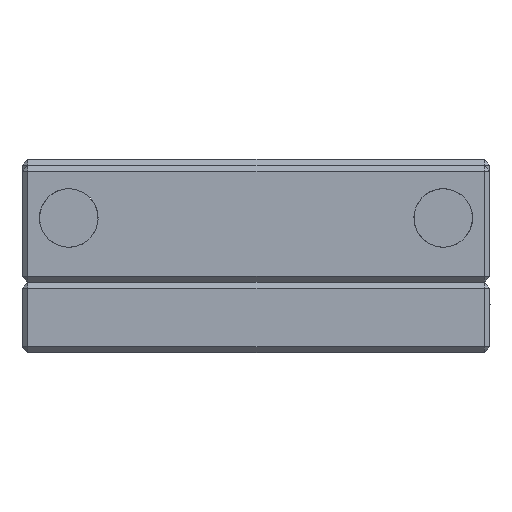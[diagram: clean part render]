
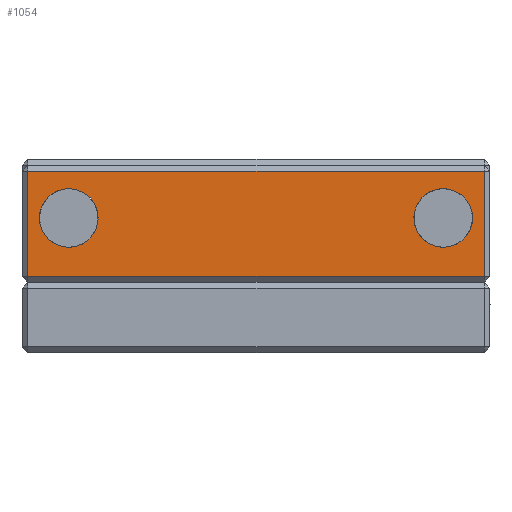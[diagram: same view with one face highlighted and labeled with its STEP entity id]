
A CAD part, left-side view. The second image highlights one B-rep face of the part: STEP entity #1054.
In plain terms, the highlighted planar face has unit normal (-1, 0, 0) as drawn and (1, 0, 0) by its records, which use the part's own axes.
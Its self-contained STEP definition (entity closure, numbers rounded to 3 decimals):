
#751 = ORIENTED_EDGE ( 'NONE', *, *, #28628, .F. ) ;
#1054 = ADVANCED_FACE ( 'NONE', ( #34201, #17973, #6739 ), #9585, .F. ) ;
#2325 = CARTESIAN_POINT ( 'NONE',  ( 7.5, 16., 8. ) ) ;
#2862 = CARTESIAN_POINT ( 'NONE',  ( 7.5, -16., 5.5 ) ) ;
#3771 = VERTEX_POINT ( 'NONE', #23512 ) ;
#5075 = VECTOR ( 'NONE', #26893, 1000. ) ;
#5224 = AXIS2_PLACEMENT_3D ( 'NONE', #34635, #13223, #39542 ) ;
#5234 = ORIENTED_EDGE ( 'NONE', *, *, #20063, .F. ) ;
#5769 = CARTESIAN_POINT ( 'NONE',  ( 7.5, -16., 3. ) ) ;
#6081 = VERTEX_POINT ( 'NONE', #5769 ) ;
#6165 = CARTESIAN_POINT ( 'NONE',  ( 7.5, 19.5, 0.5 ) ) ;
#6739 = FACE_OUTER_BOUND ( 'NONE', #38108, .T. ) ;
#6872 = ORIENTED_EDGE ( 'NONE', *, *, #15836, .F. ) ;
#6928 = CIRCLE ( 'NONE', #42488, 2.5 ) ;
#7290 = CARTESIAN_POINT ( 'NONE',  ( 7.5, -20., 9.5 ) ) ;
#7599 = DIRECTION ( 'NONE',  ( 0., 1., 0. ) ) ;
#8183 = CARTESIAN_POINT ( 'NONE',  ( 7.5, -16., 5.5 ) ) ;
#9106 = EDGE_CURVE ( 'NONE', #3771, #23472, #28775, .T. ) ;
#9585 = PLANE ( 'NONE',  #5224 ) ;
#9959 = CARTESIAN_POINT ( 'NONE',  ( 7.5, 16., 5.5 ) ) ;
#9996 = VERTEX_POINT ( 'NONE', #2325 ) ;
#11104 = CARTESIAN_POINT ( 'NONE',  ( 7.5, 19.5, 10. ) ) ;
#11105 = EDGE_CURVE ( 'NONE', #15657, #32645, #25888, .T. ) ;
#11499 = ORIENTED_EDGE ( 'NONE', *, *, #44241, .F. ) ;
#12100 = AXIS2_PLACEMENT_3D ( 'NONE', #35988, #14386, #43058 ) ;
#13088 = CARTESIAN_POINT ( 'NONE',  ( 7.5, 19.5, 9.5 ) ) ;
#13223 = DIRECTION ( 'NONE',  ( -1., 0., 0. ) ) ;
#14386 = DIRECTION ( 'NONE',  ( 1., 0., 0. ) ) ;
#15170 = DIRECTION ( 'NONE',  ( 0., 0., -1. ) ) ;
#15657 = VERTEX_POINT ( 'NONE', #6165 ) ;
#15836 = EDGE_CURVE ( 'NONE', #6081, #33407, #22807, .T. ) ;
#17042 = ORIENTED_EDGE ( 'NONE', *, *, #9106, .F. ) ;
#17973 = FACE_BOUND ( 'NONE', #45938, .T. ) ;
#18876 = LINE ( 'NONE', #11104, #23356 ) ;
#20063 = EDGE_CURVE ( 'NONE', #9996, #28411, #30423, .T. ) ;
#20279 = VECTOR ( 'NONE', #25015, 1000. ) ;
#21900 = CARTESIAN_POINT ( 'NONE',  ( 7.5, -19.5, 10. ) ) ;
#22807 = CIRCLE ( 'NONE', #40972, 2.5 ) ;
#23356 = VECTOR ( 'NONE', #15170, 1000. ) ;
#23472 = VERTEX_POINT ( 'NONE', #13088 ) ;
#23512 = CARTESIAN_POINT ( 'NONE',  ( 7.5, -19.5, 9.5 ) ) ;
#24462 = CARTESIAN_POINT ( 'NONE',  ( 7.5, -19.5, 0.5 ) ) ;
#24972 = ORIENTED_EDGE ( 'NONE', *, *, #26835, .F. ) ;
#25015 = DIRECTION ( 'NONE',  ( 0., 0., 1. ) ) ;
#25053 = EDGE_CURVE ( 'NONE', #28411, #9996, #34019, .T. ) ;
#25888 = LINE ( 'NONE', #37053, #5075 ) ;
#26577 = CARTESIAN_POINT ( 'NONE',  ( 7.5, 16., 3. ) ) ;
#26835 = EDGE_CURVE ( 'NONE', #23472, #15657, #18876, .T. ) ;
#26893 = DIRECTION ( 'NONE',  ( 0., -1., 0. ) ) ;
#27223 = DIRECTION ( 'NONE',  ( 0., 0., 1. ) ) ;
#27781 = DIRECTION ( 'NONE',  ( 1., 0., 0. ) ) ;
#28411 = VERTEX_POINT ( 'NONE', #26577 ) ;
#28628 = EDGE_CURVE ( 'NONE', #33407, #6081, #6928, .T. ) ;
#28775 = LINE ( 'NONE', #7290, #29872 ) ;
#29495 = DIRECTION ( 'NONE',  ( 0., 0., 1. ) ) ;
#29872 = VECTOR ( 'NONE', #7599, 1000. ) ;
#30423 = CIRCLE ( 'NONE', #40781, 2.5 ) ;
#31415 = DIRECTION ( 'NONE',  ( 1., 0., 0. ) ) ;
#31446 = EDGE_LOOP ( 'NONE', ( #5234, #35874 ) ) ;
#32645 = VERTEX_POINT ( 'NONE', #24462 ) ;
#33407 = VERTEX_POINT ( 'NONE', #34390 ) ;
#34019 = CIRCLE ( 'NONE', #12100, 2.5 ) ;
#34201 = FACE_BOUND ( 'NONE', #31446, .T. ) ;
#34390 = CARTESIAN_POINT ( 'NONE',  ( 7.5, -16., 8. ) ) ;
#34635 = CARTESIAN_POINT ( 'NONE',  ( 7.5, -20., 10. ) ) ;
#34807 = LINE ( 'NONE', #21900, #20279 ) ;
#35874 = ORIENTED_EDGE ( 'NONE', *, *, #25053, .F. ) ;
#35988 = CARTESIAN_POINT ( 'NONE',  ( 7.5, 16., 5.5 ) ) ;
#37053 = CARTESIAN_POINT ( 'NONE',  ( 7.5, -20., 0.5 ) ) ;
#38108 = EDGE_LOOP ( 'NONE', ( #40119, #24972, #17042, #11499 ) ) ;
#38599 = DIRECTION ( 'NONE',  ( 0., 0., 1. ) ) ;
#39542 = DIRECTION ( 'NONE',  ( 0., 0., 1. ) ) ;
#40119 = ORIENTED_EDGE ( 'NONE', *, *, #11105, .F. ) ;
#40479 = DIRECTION ( 'NONE',  ( 1., 0., 0. ) ) ;
#40781 = AXIS2_PLACEMENT_3D ( 'NONE', #9959, #31415, #27223 ) ;
#40972 = AXIS2_PLACEMENT_3D ( 'NONE', #8183, #40479, #29495 ) ;
#42488 = AXIS2_PLACEMENT_3D ( 'NONE', #2862, #27781, #38599 ) ;
#43058 = DIRECTION ( 'NONE',  ( 0., 0., 1. ) ) ;
#44241 = EDGE_CURVE ( 'NONE', #32645, #3771, #34807, .T. ) ;
#45938 = EDGE_LOOP ( 'NONE', ( #751, #6872 ) ) ;
